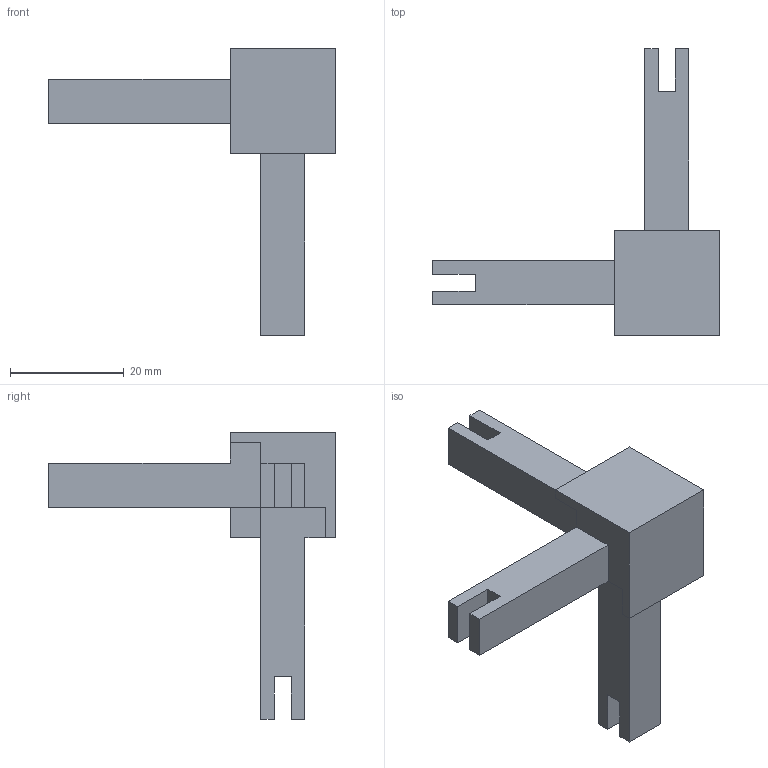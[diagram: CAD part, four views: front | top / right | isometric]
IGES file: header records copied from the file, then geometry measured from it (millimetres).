
Start section: Data from Parasolid IGES Translator 20.0.26, Copyright(c) 2006 Siemens P LM Software. All Rights Reserved.
Global section: file name: 9298839.igs; native system: By Siemens PLM Incorporated; preprocessor: XPlus GENERIC/IGES 20.0.26; author: Noname; organization: Noname; date: 20210823.120805; units: millimetre
Bounding box: 50.5 x 50.5 x 50.5 mm (x, y, z)
Surface area: 5264.7 mm2 (no closed solid volume)
Topology: 0 solids, 0 shells, 36 faces, 198 edges, 198 vertices
Faces by surface type: extrusion 36
